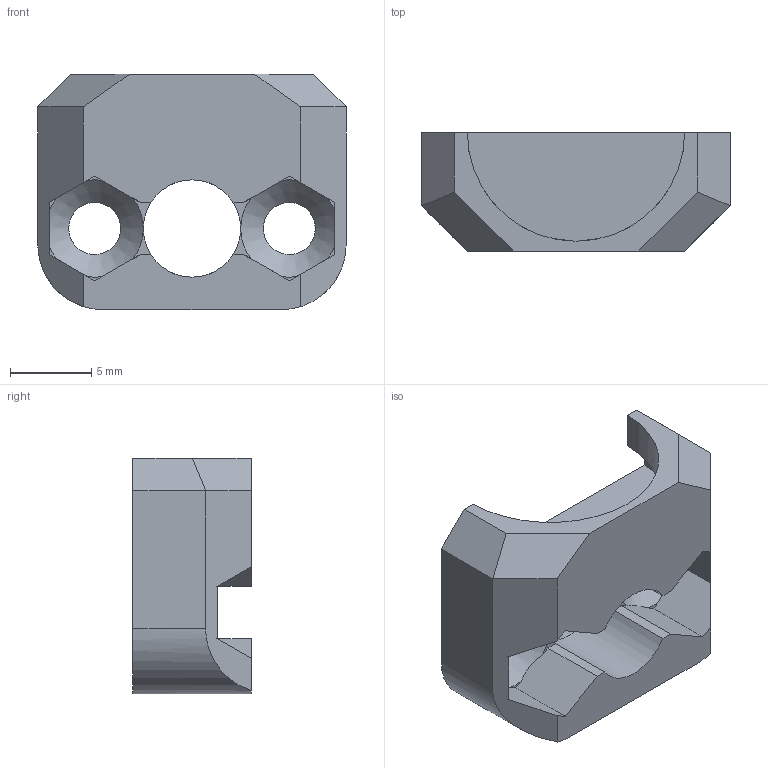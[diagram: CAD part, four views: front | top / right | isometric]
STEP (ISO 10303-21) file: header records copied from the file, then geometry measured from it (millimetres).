
FILE_DESCRIPTION(/* description */ (''),/* implementation_level */ '2;1');
FILE_NAME(/* name */ '3-24-4 Shock top two.step',/* time_stamp */ '2025-05-10T22:05:31+02:00',/* author */ (''),/* organization */ (''),/* preprocessor_version */ 'ST-DEVELOPER v20.1',/* originating_system */ 'Autodesk Translation Framework v14.4.0.0',/* authorisation */ '');
FILE_SCHEMA (('AUTOMOTIVE_DESIGN { 1 0 10303 214 3 1 1 }'));
Length unit declared in the file: millimetre
Products named in the file (1): 09-26-08 Shock top two
Bounding box: 19 x 7.3 x 14.5 mm (x, y, z)
Volume: 930.9 mm3; surface area: 1197.7 mm2
Topology: 1 solids, 1 shells, 56 faces, 162 edges, 106 vertices
Faces by surface type: plane 45, cylinder 9, cone 2
Full cylindrical faces by diameter (mm): 3.2 x2, 6 x1, 7.2 x1
Entity records: 1878 total; most frequent: CARTESIAN_POINT 349, ORIENTED_EDGE 324, DIRECTION 304, EDGE_CURVE 162, LINE 110, VECTOR 110, VERTEX_POINT 106, AXIS2_PLACEMENT_3D 97
